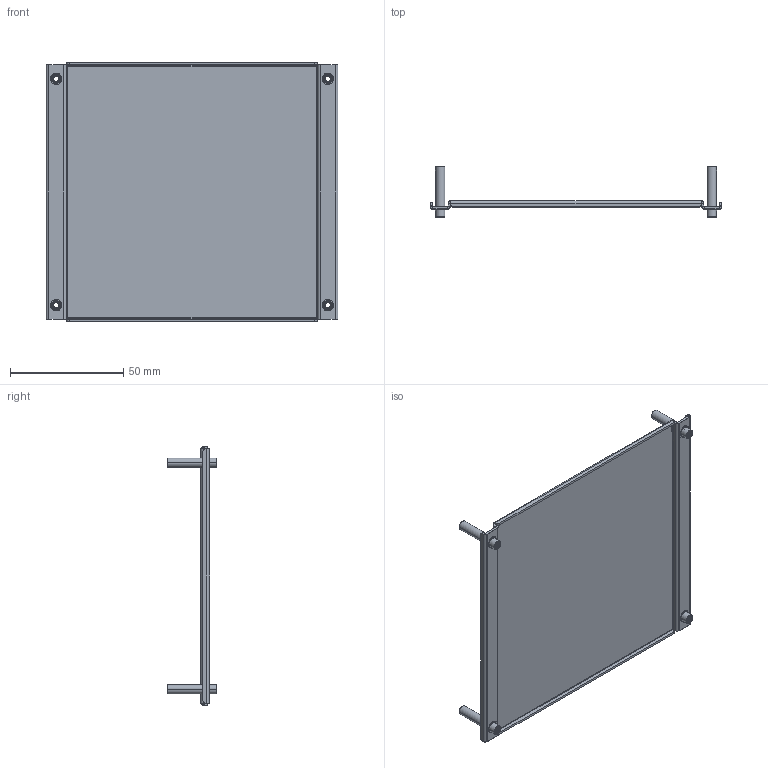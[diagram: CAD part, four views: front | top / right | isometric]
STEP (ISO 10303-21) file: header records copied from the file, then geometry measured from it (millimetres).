
FILE_DESCRIPTION((''),'2;1');
FILE_NAME('123400001979A-HS-BKT_JC2_ASM','2019-06-19T',('george_hsu'),(''),'PRO/ENGINEER BY PARAMETRIC TECHNOLOGY CORPORATION, 2012480','PRO/ENGINEER BY PARAMETRIC TECHNOLOGY CORPORATION, 2012480','');
FILE_SCHEMA(('AUTOMOTIVE_DESIGN { 1 0 10303 214 1 1 1 1 }'));
Length unit declared in the file: millimetre
Products named in the file (5): BKT-HS_JC2; STANDOFF-M3X3P9MM; INSULATOR_BKT-HS_JC2; INSULATOR-BRK-JC2-SIDE; 123400001979A-HS-BKT_JC2_ASM
Assembly tree (8 placements, depth 2):
  123400001979A-HS-BKT_JC2_ASM
    BKT-HS_JC2
    STANDOFF-M3X3P9MM  x4
    INSULATOR_BKT-HS_JC2
    INSULATOR-BRK-JC2-SIDE  x2
Bounding box: 129 x 21.98 x 114.3 mm (x, y, z)
Volume: 20046.4 mm3; surface area: 61817.5 mm2
Topology: 8 solids, 8 shells, 292 faces, 696 edges, 432 vertices
Faces by surface type: plane 128, cylinder 124, bspline 24, cone 16
Entity records: 7315 total; most frequent: CARTESIAN_POINT 2355, DIRECTION 735, ORIENTED_EDGE 708, EDGE_CURVE 354, PRESENTATION_STYLE_ASSIGNMENT 320, STYLED_ITEM 320, CURVE_STYLE 318, AXIS2_PLACEMENT_3D 259
